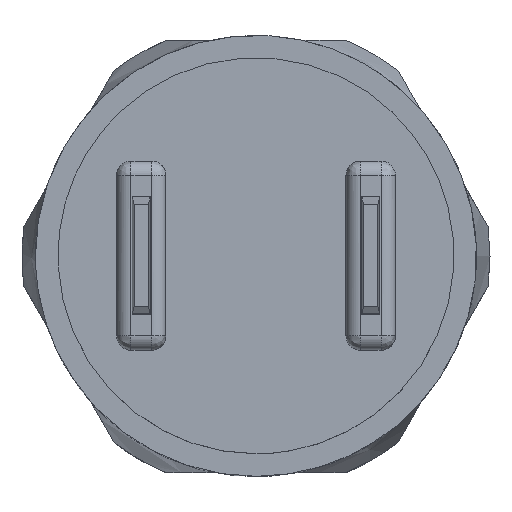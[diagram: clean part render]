
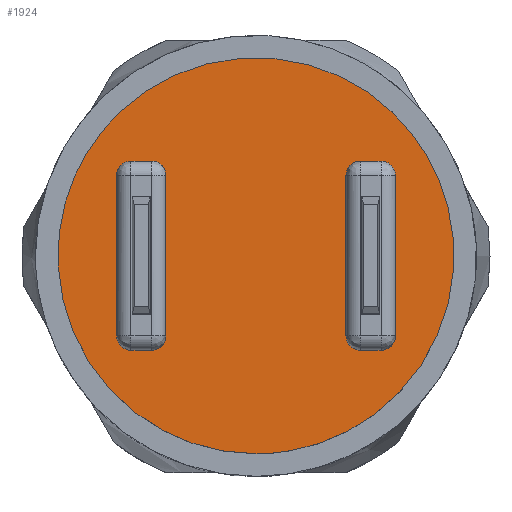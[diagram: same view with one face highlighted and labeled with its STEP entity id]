
A CAD part, top view. The second image highlights one B-rep face of the part: STEP entity #1924.
In plain terms, the highlighted free-form (B-spline) face has degree [1, 1] with [2, 2] control points.
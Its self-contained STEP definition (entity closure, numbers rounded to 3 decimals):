
#395=CARTESIAN_POINT('V10',(-6.95,5.25,
   35.0));
#396=VERTEX_POINT('V10',#395);
#411=CARTESIAN_POINT('V4',(-5.8,5.25,35.0)
   );
#412=VERTEX_POINT('V4',#411);
#418=CARTESIAN_POINT('E128',(-6.95,5.25,
   35.0));
#419=CARTESIAN_POINT('E128',(-5.8,5.25,
   35.0));
#420=B_SPLINE_CURVE_WITH_KNOTS('E128',1,(#418,#419),.POLYLINE_FORM.,
   .F.,.U.,(2,2),(0.291,0.709),
   .UNSPECIFIED.);
#421=EDGE_CURVE('E128',#396,#412,#420,.T.);
#431=CARTESIAN_POINT('V3',(-5.,4.45,35.0)
   );
#432=VERTEX_POINT('V3',#431);
#447=CARTESIAN_POINT('V14',(-5.,-4.45,
   35.0));
#448=VERTEX_POINT('V14',#447);
#454=CARTESIAN_POINT('E129',(-5.,4.45,
   35.0));
#455=CARTESIAN_POINT('E129',(-5.,-4.45,
   35.0));
#456=B_SPLINE_CURVE_WITH_KNOTS('E129',1,(#454,#455),.POLYLINE_FORM.,
   .F.,.U.,(2,2),(0.076,0.924),
   .UNSPECIFIED.);
#457=EDGE_CURVE('E129',#432,#448,#456,.T.);
#490=CARTESIAN_POINT('E3',(-5.8,5.25,35.0)
   );
#491=CARTESIAN_POINT('E3',(-5.,5.25,35.0)
   );
#492=CARTESIAN_POINT('E3',(-5.,4.45,35.0)
   );
#500=(BOUNDED_CURVE()B_SPLINE_CURVE(2,(#490,#491,#492),
   .CIRCULAR_ARC.,.F.,.U.)B_SPLINE_CURVE_WITH_KNOTS((3,3),(0.0,
   1.047),.UNSPECIFIED.)CURVE()
   GEOMETRIC_REPRESENTATION_ITEM()RATIONAL_B_SPLINE_CURVE((1.0,
   0.707,1.0))REPRESENTATION_ITEM('E3'));
#501=EDGE_CURVE('E3',#412,#432,#500,.T.);
#888=CARTESIAN_POINT('V13',(-5.8,-5.25,
   35.0));
#889=VERTEX_POINT('V13',#888);
#895=CARTESIAN_POINT('E19',(-5.,-4.45,
   35.0));
#896=CARTESIAN_POINT('E19',(-5.,-5.25,
   35.0));
#897=CARTESIAN_POINT('E19',(-5.8,-5.25,
   35.0));
#905=(BOUNDED_CURVE()B_SPLINE_CURVE(2,(#895,#896,#897),
   .CIRCULAR_ARC.,.F.,.U.)B_SPLINE_CURVE_WITH_KNOTS((3,3),(0.0,
   1.047),.UNSPECIFIED.)CURVE()
   GEOMETRIC_REPRESENTATION_ITEM()RATIONAL_B_SPLINE_CURVE((1.0,
   0.707,1.0))REPRESENTATION_ITEM('E19'));
#906=EDGE_CURVE('E19',#448,#889,#905,.T.);
#919=CARTESIAN_POINT('V19',(-6.95,-5.25,
   35.0));
#920=VERTEX_POINT('V19',#919);
#926=CARTESIAN_POINT('E126',(-5.8,-5.25,
   35.0));
#927=CARTESIAN_POINT('E126',(-6.95,-5.25,
   35.0));
#928=B_SPLINE_CURVE_WITH_KNOTS('E126',1,(#926,#927),.POLYLINE_FORM.,
   .F.,.U.,(2,2),(0.291,0.709),
   .UNSPECIFIED.);
#929=EDGE_CURVE('E126',#889,#920,#928,.T.);
#948=CARTESIAN_POINT('V20',(-7.75,-4.45,
   35.0));
#949=VERTEX_POINT('V20',#948);
#950=CARTESIAN_POINT('E30',(-6.95,-5.25,
   35.0));
#951=CARTESIAN_POINT('E30',(-7.75,-5.25,
   35.0));
#952=CARTESIAN_POINT('E30',(-7.75,-4.45,
   35.0));
#960=(BOUNDED_CURVE()B_SPLINE_CURVE(2,(#950,#951,#952),
   .CIRCULAR_ARC.,.F.,.U.)B_SPLINE_CURVE_WITH_KNOTS((3,3),(0.0,
   1.047),.UNSPECIFIED.)CURVE()
   GEOMETRIC_REPRESENTATION_ITEM()RATIONAL_B_SPLINE_CURVE((1.0,
   0.707,1.0))REPRESENTATION_ITEM('E30'));
#961=EDGE_CURVE('E30',#920,#949,#960,.T.);
#978=CARTESIAN_POINT('V9',(-7.75,4.45,35.0)
   );
#979=VERTEX_POINT('V9',#978);
#985=CARTESIAN_POINT('E127',(-7.75,-4.45,
   35.0));
#986=CARTESIAN_POINT('E127',(-7.75,4.45,
   35.0));
#987=B_SPLINE_CURVE_WITH_KNOTS('E127',1,(#985,#986),.POLYLINE_FORM.,
   .F.,.U.,(2,2),(0.076,0.924),
   .UNSPECIFIED.);
#988=EDGE_CURVE('E127',#949,#979,#987,.T.);
#1009=CARTESIAN_POINT('E14',(-7.75,4.45,
   35.0));
#1010=CARTESIAN_POINT('E14',(-7.75,5.25,
   35.0));
#1011=CARTESIAN_POINT('E14',(-6.95,5.25,
   35.0));
#1019=(BOUNDED_CURVE()B_SPLINE_CURVE(2,(#1009,#1010,#1011),
   .CIRCULAR_ARC.,.F.,.U.)B_SPLINE_CURVE_WITH_KNOTS((3,3),(0.0,
   1.047),.UNSPECIFIED.)CURVE()
   GEOMETRIC_REPRESENTATION_ITEM()RATIONAL_B_SPLINE_CURVE((1.0,
   0.707,1.0))REPRESENTATION_ITEM('E14'));
#1020=EDGE_CURVE('E14',#979,#396,#1019,.T.);
#1245=CARTESIAN_POINT('V30',(5.,-4.45,
   35.0));
#1246=VERTEX_POINT('V30',#1245);
#1261=CARTESIAN_POINT('V34',(5.,4.45,
   35.0));
#1262=VERTEX_POINT('V34',#1261);
#1268=CARTESIAN_POINT('E131',(5.,-4.45,
   35.0));
#1269=CARTESIAN_POINT('E131',(5.,4.45,
   35.0));
#1270=B_SPLINE_CURVE_WITH_KNOTS('E131',1,(#1268,#1269),
   .POLYLINE_FORM.,.F.,.U.,(2,2),(0.076,
   0.924),.UNSPECIFIED.);
#1271=EDGE_CURVE('E131',#1246,#1262,#1270,.T.);
#1448=CARTESIAN_POINT('V33',(5.8,5.25,
   35.0));
#1449=VERTEX_POINT('V33',#1448);
#1455=CARTESIAN_POINT('E51',(5.,4.45,
   35.0));
#1456=CARTESIAN_POINT('E51',(5.,5.25,
   35.0));
#1457=CARTESIAN_POINT('E51',(5.8,5.25,
   35.0));
#1465=(BOUNDED_CURVE()B_SPLINE_CURVE(2,(#1455,#1456,#1457),
   .CIRCULAR_ARC.,.F.,.U.)B_SPLINE_CURVE_WITH_KNOTS((3,3),(0.0,
   1.047),.UNSPECIFIED.)CURVE()
   GEOMETRIC_REPRESENTATION_ITEM()RATIONAL_B_SPLINE_CURVE((1.0,
   0.707,1.0))REPRESENTATION_ITEM('E51'));
#1466=EDGE_CURVE('E51',#1262,#1449,#1465,.T.);
#1479=CARTESIAN_POINT('V39',(6.95,5.25,
   35.0));
#1480=VERTEX_POINT('V39',#1479);
#1486=CARTESIAN_POINT('E130',(5.8,5.25,
   35.0));
#1487=CARTESIAN_POINT('E130',(6.95,5.25,
   35.0));
#1488=B_SPLINE_CURVE_WITH_KNOTS('E130',1,(#1486,#1487),
   .POLYLINE_FORM.,.F.,.U.,(2,2),(0.291,
   0.709),.UNSPECIFIED.);
#1489=EDGE_CURVE('E130',#1449,#1480,#1488,.T.);
#1508=CARTESIAN_POINT('V40',(7.75,4.45,
   35.0));
#1509=VERTEX_POINT('V40',#1508);
#1510=CARTESIAN_POINT('E62',(6.95,5.25,
   35.0));
#1511=CARTESIAN_POINT('E62',(7.75,5.25,
   35.0));
#1512=CARTESIAN_POINT('E62',(7.75,4.45,
   35.0));
#1520=(BOUNDED_CURVE()B_SPLINE_CURVE(2,(#1510,#1511,#1512),
   .CIRCULAR_ARC.,.F.,.U.)B_SPLINE_CURVE_WITH_KNOTS((3,3),(0.0,
   1.047),.UNSPECIFIED.)CURVE()
   GEOMETRIC_REPRESENTATION_ITEM()RATIONAL_B_SPLINE_CURVE((1.0,
   0.707,1.0))REPRESENTATION_ITEM('E62'));
#1521=EDGE_CURVE('E62',#1480,#1509,#1520,.T.);
#1540=CARTESIAN_POINT('V24',(7.75,-4.45,
   35.0));
#1541=VERTEX_POINT('V24',#1540);
#1547=CARTESIAN_POINT('E133',(7.75,4.45,
   35.0));
#1548=CARTESIAN_POINT('E133',(7.75,-4.45,
   35.0));
#1549=B_SPLINE_CURVE_WITH_KNOTS('E133',1,(#1547,#1548),
   .POLYLINE_FORM.,.F.,.U.,(2,2),(0.076,
   0.924),.UNSPECIFIED.);
#1550=EDGE_CURVE('E133',#1509,#1541,#1549,.T.);
#1799=CARTESIAN_POINT('V23',(6.95,-5.25,
   35.0));
#1800=VERTEX_POINT('V23',#1799);
#1806=CARTESIAN_POINT('E35',(7.75,-4.45,
   35.0));
#1807=CARTESIAN_POINT('E35',(7.75,-5.25,
   35.0));
#1808=CARTESIAN_POINT('E35',(6.95,-5.25,
   35.0));
#1816=(BOUNDED_CURVE()B_SPLINE_CURVE(2,(#1806,#1807,#1808),
   .CIRCULAR_ARC.,.F.,.U.)B_SPLINE_CURVE_WITH_KNOTS((3,3),(0.0,
   1.047),.UNSPECIFIED.)CURVE()
   GEOMETRIC_REPRESENTATION_ITEM()RATIONAL_B_SPLINE_CURVE((1.0,
   0.707,1.0))REPRESENTATION_ITEM('E35'));
#1817=EDGE_CURVE('E35',#1541,#1800,#1816,.T.);
#1830=CARTESIAN_POINT('V29',(5.8,-5.25,
   35.0));
#1831=VERTEX_POINT('V29',#1830);
#1837=CARTESIAN_POINT('E132',(6.95,-5.25,
   35.0));
#1838=CARTESIAN_POINT('E132',(5.8,-5.25,
   35.0));
#1839=B_SPLINE_CURVE_WITH_KNOTS('E132',1,(#1837,#1838),
   .POLYLINE_FORM.,.F.,.U.,(2,2),(0.291,
   0.709),.UNSPECIFIED.);
#1840=EDGE_CURVE('E132',#1800,#1831,#1839,.T.);
#1859=CARTESIAN_POINT('E46',(5.8,-5.25,
   35.0));
#1860=CARTESIAN_POINT('E46',(5.,-5.25,
   35.0));
#1861=CARTESIAN_POINT('E46',(5.,-4.45,
   35.0));
#1869=(BOUNDED_CURVE()B_SPLINE_CURVE(2,(#1859,#1860,#1861),
   .CIRCULAR_ARC.,.F.,.U.)B_SPLINE_CURVE_WITH_KNOTS((3,3),(0.0,
   1.047),.UNSPECIFIED.)CURVE()
   GEOMETRIC_REPRESENTATION_ITEM()RATIONAL_B_SPLINE_CURVE((1.0,
   0.707,1.0))REPRESENTATION_ITEM('E46'));
#1870=EDGE_CURVE('E46',#1831,#1246,#1869,.T.);
#1878=CARTESIAN_POINT('F52',(-11.55,-11.55,
   35.0));
#1879=CARTESIAN_POINT('F52',(11.55,-11.55,
   35.0));
#1880=CARTESIAN_POINT('F52',(-11.55,11.55,
   35.0));
#1881=CARTESIAN_POINT('F52',(11.55,11.55,
   35.0));
#1882=QUASI_UNIFORM_SURFACE('F52',1,1,((#1878,#1880),(#1879,#1881))
,.PLANE_SURF.,.F.,.F.,.U.);
#1883=CARTESIAN_POINT('V76',(0.,-11.,35.0)
   );
#1884=VERTEX_POINT('V76',#1883);
#1885=CARTESIAN_POINT('E122',(0.,-11.,
   35.0));
#1886=CARTESIAN_POINT('E122',(-19.053,
   -11.,35.0));
#1887=CARTESIAN_POINT('E122',(-9.526,5.5,
   35.0));
#1888=CARTESIAN_POINT('E122',(0.,22.,35.0)
   );
#1889=CARTESIAN_POINT('E122',(9.526,5.5,
   35.0));
#1890=CARTESIAN_POINT('E122',(19.053,-11.,
   35.0));
#1891=CARTESIAN_POINT('E122',(0.,-11.,
   35.0));
#1899=(BOUNDED_CURVE()B_SPLINE_CURVE(2,(#1885,#1886,#1887,#1888,
   #1889,#1890,#1891),.CIRCULAR_ARC.,.T.,.U.)
   B_SPLINE_CURVE_WITH_KNOTS((3,2,2,3),(0.0,0.333,
   0.667,1.0),.UNSPECIFIED.)CURVE()
   GEOMETRIC_REPRESENTATION_ITEM()RATIONAL_B_SPLINE_CURVE((1.0,
   0.5,1.0,0.5,1.0,0.5,1.0)
   )REPRESENTATION_ITEM('E122'));
#1900=EDGE_CURVE('E122',#1884,#1884,#1899,.T.);
#1901=ORIENTED_EDGE('E122',*,*,#1900,.F.);
#1902=EDGE_LOOP('F52',(#1901));
#1903=FACE_OUTER_BOUND('F52',#1902,.T.);
#1904=ORIENTED_EDGE('E46',*,*,#1870,.T.);
#1905=ORIENTED_EDGE('F49',*,*,#1271,.T.);
#1906=ORIENTED_EDGE('E51',*,*,#1466,.T.);
#1907=ORIENTED_EDGE('F48',*,*,#1489,.T.);
#1908=ORIENTED_EDGE('E62',*,*,#1521,.T.);
#1909=ORIENTED_EDGE('E133',*,*,#1550,.T.);
#1910=ORIENTED_EDGE('E35',*,*,#1817,.T.);
#1911=ORIENTED_EDGE('F50',*,*,#1840,.T.);
#1912=EDGE_LOOP('F52',(#1904,#1905,#1906,#1907,#1908,#1909,#1910,
   #1911));
#1913=FACE_BOUND('F52',#1912,.T.);
#1914=ORIENTED_EDGE('E14',*,*,#1020,.T.);
#1915=ORIENTED_EDGE('F46',*,*,#421,.T.);
#1916=ORIENTED_EDGE('E3',*,*,#501,.T.);
#1917=ORIENTED_EDGE('F47',*,*,#457,.T.);
#1918=ORIENTED_EDGE('E19',*,*,#906,.T.);
#1919=ORIENTED_EDGE('F44',*,*,#929,.T.);
#1920=ORIENTED_EDGE('E30',*,*,#961,.T.);
#1921=ORIENTED_EDGE('E127',*,*,#988,.T.);
#1922=EDGE_LOOP('F52',(#1914,#1915,#1916,#1917,#1918,#1919,#1920,
   #1921));
#1923=FACE_BOUND('F52',#1922,.T.);
#1924=ADVANCED_FACE('F52',(#1903,#1913,#1923),#1882,.T.);
